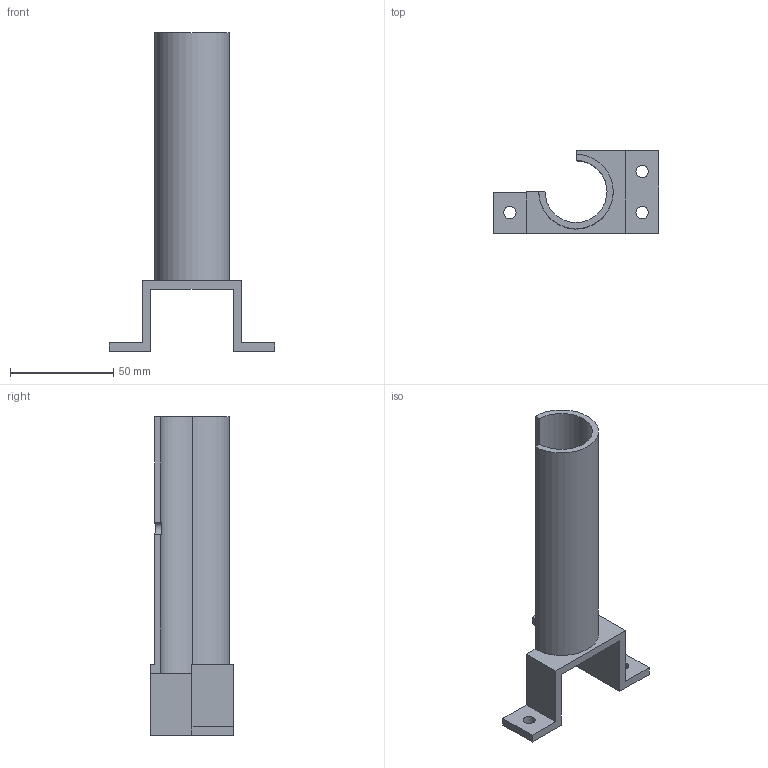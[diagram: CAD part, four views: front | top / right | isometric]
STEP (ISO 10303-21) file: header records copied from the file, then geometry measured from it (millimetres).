
FILE_DESCRIPTION(/* description */ ('CAx-IF Rec.Pracs.---Representation and Presentation of Product Manufacturing Information (PMI)---4.0---2014-10-13','CAx-IF Rec.Pracs.---3D Tessellated Geometry---0.4---2014-09-14','2;1'),/* implementation_level */ '2;1');
FILE_NAME(/* name */ 'korpus1_section',/* time_stamp */ '2020-03-20T16:54:10+01:00',/* author */ (''),/* organization */ (''),/* preprocessor_version */ 'ST-DEVELOPER v16.7',/* originating_system */ 'SIEMENS PLM Software NX 1847',/* authorisation */ $);
FILE_SCHEMA (('AP242_MANAGED_MODEL_BASED_3D_ENGINEERING_MIM_LF { 1 0 10303 442 1 1 4 }'));
Length unit declared in the file: millimetre
Products named in the file (1): korpus1_section
Bounding box: 80 x 40 x 154 mm (x, y, z)
Volume: 42289.1 mm3; surface area: 28362.2 mm2
Topology: 1 solids, 1 shells, 24 faces, 66 edges, 44 vertices
Faces by surface type: plane 18, cylinder 6
Full cylindrical faces by diameter (mm): 6 x3
Entity records: 1064 total; most frequent: CARTESIAN_POINT 168, DIRECTION 137, ORIENTED_EDGE 126, EDGE_CURVE 63, LINE 51, VECTOR 51, AXIS2_PLACEMENT_3D 51, VERTEX_POINT 44
